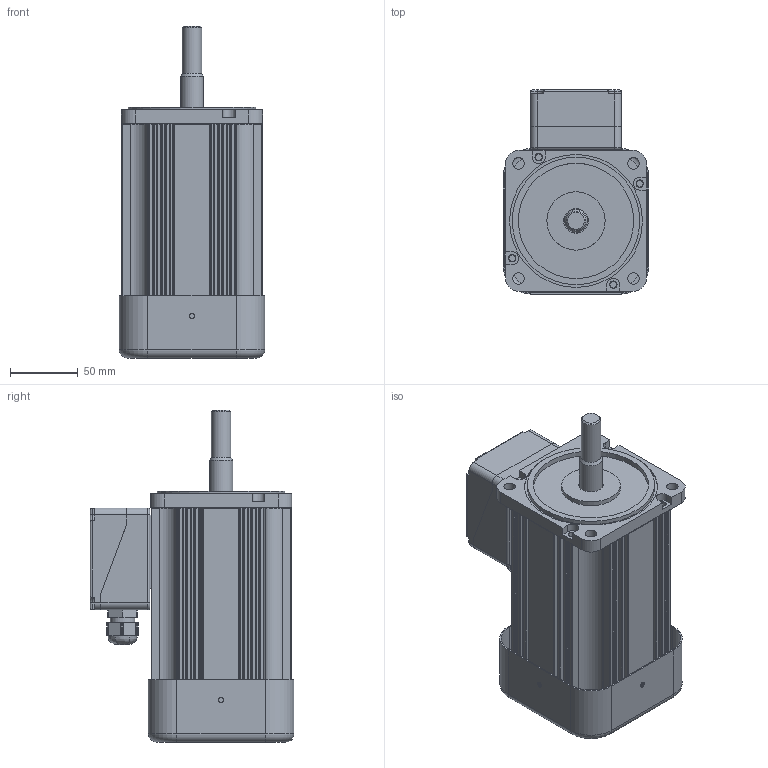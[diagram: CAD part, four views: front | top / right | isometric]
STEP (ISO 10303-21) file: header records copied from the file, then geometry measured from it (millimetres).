
FILE_DESCRIPTION (( 'STEP AP203' ), '1' );
FILE_NAME ('10IDG¤±-400FHC-T.STEP', '2020-06-19T06:51:47', ( '' ), ( '' ), 'SwSTEP 2.0', 'SolidWorks 2012', '' );
FILE_SCHEMA (( 'CONFIG_CONTROL_DESIGN' ));
Length unit declared in the file: millimetre
Products named in the file (10): 10IDG､ｱ-400FHC-T; 褻董(欽濠夢蝶)_ル遽; жっ堅鼠だ韁_ル遽; Щ滓衛綰_ル遽; 鼻っ_ル遽; жっ_ル遽; FRONT COVER(FHC¿ë); 104 FC; BACK COVER; 104 CASE
Assembly tree (9 placements, depth 3):
  10IDG､ｱ-400FHC-T
    104 CASE
    BACK COVER
    104 FC
    FRONT COVER(FHC¿ë)
    褻董(欽濠夢蝶)_ル遽
      жっ_ル遽
      鼻っ_ル遽
      Щ滓衛綰_ル遽
      жっ堅鼠だ韁_ル遽
Bounding box: 107.4 x 150.4 x 244.8 mm (x, y, z)
Volume: 1569484.3 mm3; surface area: 245605 mm2
Topology: 9 solids, 9 shells, 908 faces, 2485 edges, 1631 vertices
Faces by surface type: cylinder 444, plane 420, torus 32, cone 6, bspline 6
Full cylindrical faces by diameter (mm): 1.5 x8, 3.5 x4, 4 x15, 4.5 x4, 5 x12, 5.5 x8, 6 x1, 8.5 x4, 9 x1, 10.8 x1, 11 x2, 12.5 x1, 13 x1, 14.38 x1, 17 x1, 18 x2, 18.001 x1, 20.5 x1, 43 x1, 52.001 x1, 85 x1, 93 x1, 94 x1, 95 x1, 95.5 x1, 97 x2, 97.001 x1, 98 x1
Entity records: 30004 total; most frequent: CARTESIAN_POINT 5501, DIRECTION 5070, ORIENTED_EDGE 4756, EDGE_CURVE 2378, AXIS2_PLACEMENT_3D 1858, VERTEX_POINT 1609, LINE 1354, VECTOR 1354
